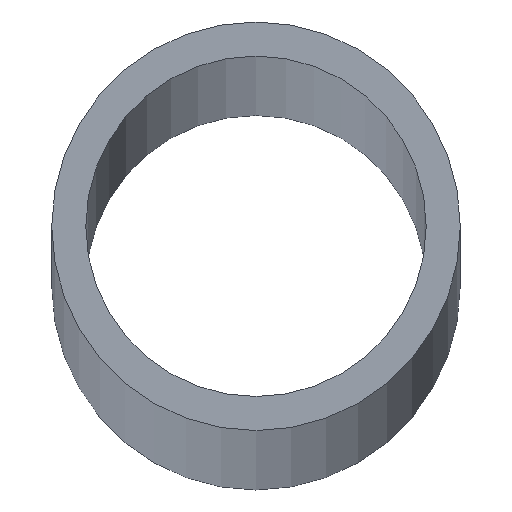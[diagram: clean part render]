
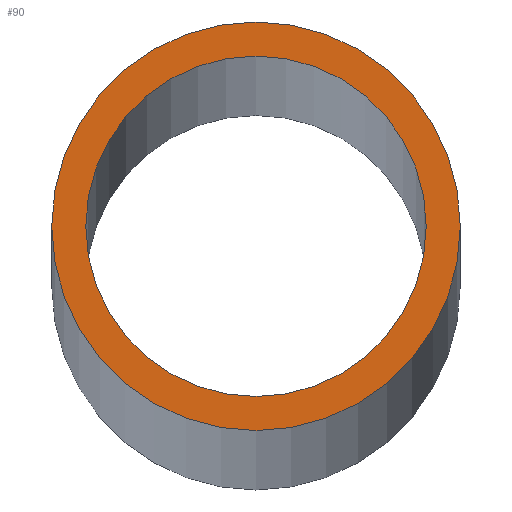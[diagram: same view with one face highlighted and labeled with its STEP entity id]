
A CAD part, top view. The second image highlights one B-rep face of the part: STEP entity #90.
In plain terms, the highlighted planar face has unit normal (0, 0, 1).
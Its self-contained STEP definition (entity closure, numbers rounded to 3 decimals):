
#8 = ORIENTED_EDGE ( 'NONE', *, *, #116, .F. ) ;
#13 = CARTESIAN_POINT ( 'NONE',  ( 5., 0., 1000. ) ) ;
#18 = VERTEX_POINT ( 'NONE', #13 ) ;
#19 = CARTESIAN_POINT ( 'NONE',  ( 0., 0., 1000. ) ) ;
#20 = AXIS2_PLACEMENT_3D ( 'NONE', #107, #104, #134 ) ;
#24 = EDGE_CURVE ( 'NONE', #65, #103, #189, .T. ) ;
#31 = AXIS2_PLACEMENT_3D ( 'NONE', #185, #69, #201 ) ;
#32 = ORIENTED_EDGE ( 'NONE', *, *, #24, .T. ) ;
#34 = DIRECTION ( 'NONE',  ( 0., 0., 1. ) ) ;
#41 = EDGE_LOOP ( 'NONE', ( #8, #180 ) ) ;
#42 = EDGE_CURVE ( 'NONE', #18, #48, #95, .T. ) ;
#48 = VERTEX_POINT ( 'NONE', #181 ) ;
#54 = CIRCLE ( 'NONE', #31, 5. ) ;
#56 = ORIENTED_EDGE ( 'NONE', *, *, #101, .T. ) ;
#58 = AXIS2_PLACEMENT_3D ( 'NONE', #19, #34, #132 ) ;
#59 = EDGE_LOOP ( 'NONE', ( #32, #56 ) ) ;
#64 = CARTESIAN_POINT ( 'NONE',  ( 0., 0., 1000. ) ) ;
#65 = VERTEX_POINT ( 'NONE', #68 ) ;
#68 = CARTESIAN_POINT ( 'NONE',  ( -6., 0., 1000. ) ) ;
#69 = DIRECTION ( 'NONE',  ( 0., 0., 1. ) ) ;
#90 = ADVANCED_FACE ( 'NONE', ( #139, #179 ), #118, .T. ) ;
#95 = CIRCLE ( 'NONE', #124, 5. ) ;
#97 = CIRCLE ( 'NONE', #20, 6. ) ;
#101 = EDGE_CURVE ( 'NONE', #103, #65, #97, .T. ) ;
#103 = VERTEX_POINT ( 'NONE', #164 ) ;
#104 = DIRECTION ( 'NONE',  ( 0., 0., 1. ) ) ;
#107 = CARTESIAN_POINT ( 'NONE',  ( 0., 0., 1000. ) ) ;
#116 = EDGE_CURVE ( 'NONE', #48, #18, #54, .T. ) ;
#118 = PLANE ( 'NONE',  #58 ) ;
#124 = AXIS2_PLACEMENT_3D ( 'NONE', #64, #167, #131 ) ;
#131 = DIRECTION ( 'NONE',  ( 1., 0., 0. ) ) ;
#132 = DIRECTION ( 'NONE',  ( 1., 0., 0. ) ) ;
#134 = DIRECTION ( 'NONE',  ( 1., 0., 0. ) ) ;
#139 = FACE_OUTER_BOUND ( 'NONE', #59, .T. ) ;
#149 = CARTESIAN_POINT ( 'NONE',  ( 0., 0., 1000. ) ) ;
#163 = AXIS2_PLACEMENT_3D ( 'NONE', #149, #210, #196 ) ;
#164 = CARTESIAN_POINT ( 'NONE',  ( 6., 0., 1000. ) ) ;
#167 = DIRECTION ( 'NONE',  ( 0., 0., 1. ) ) ;
#179 = FACE_BOUND ( 'NONE', #41, .T. ) ;
#180 = ORIENTED_EDGE ( 'NONE', *, *, #42, .F. ) ;
#181 = CARTESIAN_POINT ( 'NONE',  ( -5., 0., 1000. ) ) ;
#185 = CARTESIAN_POINT ( 'NONE',  ( 0., 0., 1000. ) ) ;
#189 = CIRCLE ( 'NONE', #163, 6. ) ;
#196 = DIRECTION ( 'NONE',  ( 1., 0., 0. ) ) ;
#201 = DIRECTION ( 'NONE',  ( 1., 0., 0. ) ) ;
#210 = DIRECTION ( 'NONE',  ( 0., 0., 1. ) ) ;
